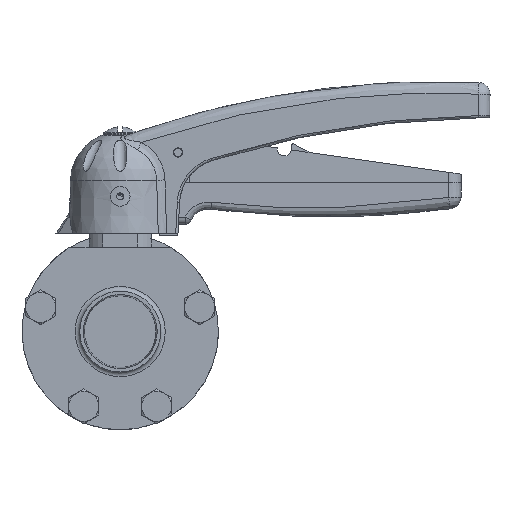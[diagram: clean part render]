
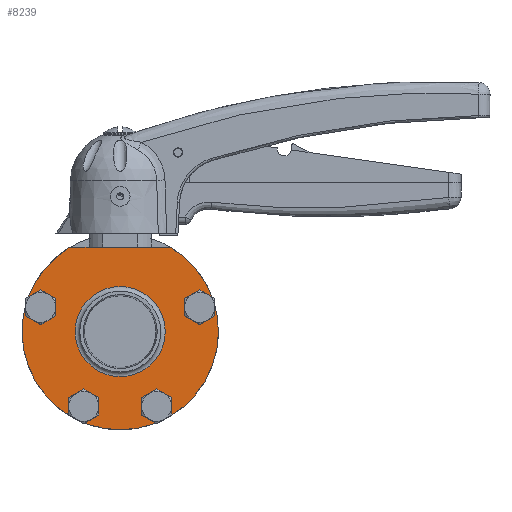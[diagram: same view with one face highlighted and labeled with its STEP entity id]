
A CAD part, front view. The second image highlights one B-rep face of the part: STEP entity #8239.
In plain terms, the highlighted planar face has unit normal (0, -1, 0) as drawn and (-1, 0, 0) by its records, which use the part's own axes.
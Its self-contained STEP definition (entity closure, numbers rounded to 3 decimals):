
#912=FACE_BOUND('',#1695,.T.);
#913=FACE_BOUND('',#1696,.T.);
#914=FACE_BOUND('',#1697,.T.);
#915=FACE_BOUND('',#1698,.T.);
#916=FACE_BOUND('',#1699,.T.);
#967=PLANE('',#8923);
#1200=FACE_OUTER_BOUND('',#1694,.T.);
#1694=EDGE_LOOP('',(#5783,#5784));
#1695=EDGE_LOOP('',(#5785));
#1696=EDGE_LOOP('',(#5786));
#1697=EDGE_LOOP('',(#5787));
#1698=EDGE_LOOP('',(#5788));
#1699=EDGE_LOOP('',(#5789));
#2223=LINE('',#11910,#2802);
#2802=VECTOR('',#9797,10.);
#3377=CIRCLE('',#8911,4.25);
#3379=CIRCLE('',#8914,4.25);
#3381=CIRCLE('',#8917,4.25);
#3383=CIRCLE('',#8920,4.25);
#3385=CIRCLE('',#8924,42.5);
#3386=CIRCLE('',#8925,19.5);
#3701=VERTEX_POINT('',#11879);
#3703=VERTEX_POINT('',#11885);
#3705=VERTEX_POINT('',#11891);
#3707=VERTEX_POINT('',#11897);
#3710=VERTEX_POINT('',#11904);
#3712=VERTEX_POINT('',#11908);
#3713=VERTEX_POINT('',#11913);
#4490=EDGE_CURVE('',#3701,#3701,#3377,.T.);
#4493=EDGE_CURVE('',#3703,#3703,#3379,.T.);
#4496=EDGE_CURVE('',#3705,#3705,#3381,.T.);
#4499=EDGE_CURVE('',#3707,#3707,#3383,.T.);
#4505=EDGE_CURVE('',#3710,#3712,#2223,.T.);
#4506=EDGE_CURVE('',#3712,#3710,#3385,.T.);
#4507=EDGE_CURVE('',#3713,#3713,#3386,.T.);
#5783=ORIENTED_EDGE('',*,*,#4505,.T.);
#5784=ORIENTED_EDGE('',*,*,#4506,.T.);
#5785=ORIENTED_EDGE('',*,*,#4490,.T.);
#5786=ORIENTED_EDGE('',*,*,#4493,.T.);
#5787=ORIENTED_EDGE('',*,*,#4496,.T.);
#5788=ORIENTED_EDGE('',*,*,#4499,.T.);
#5789=ORIENTED_EDGE('',*,*,#4507,.F.);
#8239=ADVANCED_FACE('',(#1200,#912,#913,#914,#915,#916),#967,.T.);
#8911=AXIS2_PLACEMENT_3D('',#11880,#9766,#9767);
#8914=AXIS2_PLACEMENT_3D('',#11886,#9773,#9774);
#8917=AXIS2_PLACEMENT_3D('',#11892,#9780,#9781);
#8920=AXIS2_PLACEMENT_3D('',#11898,#9787,#9788);
#8923=AXIS2_PLACEMENT_3D('',#11911,#9798,#9799);
#8924=AXIS2_PLACEMENT_3D('',#11912,#9800,#9801);
#8925=AXIS2_PLACEMENT_3D('',#11914,#9802,#9803);
#9766=DIRECTION('center_axis',(1.,0.,0.));
#9767=DIRECTION('ref_axis',(0.,0.,1.));
#9773=DIRECTION('center_axis',(1.,0.,0.));
#9774=DIRECTION('ref_axis',(0.,0.,1.));
#9780=DIRECTION('center_axis',(1.,0.,0.));
#9781=DIRECTION('ref_axis',(0.,0.,1.));
#9787=DIRECTION('center_axis',(1.,0.,0.));
#9788=DIRECTION('ref_axis',(0.,0.,1.));
#9797=DIRECTION('',(0.,0.,-1.));
#9798=DIRECTION('center_axis',(-1.,0.,0.));
#9799=DIRECTION('ref_axis',(0.,0.,1.));
#9800=DIRECTION('center_axis',(-1.,0.,0.));
#9801=DIRECTION('ref_axis',(0.,0.,1.));
#9802=DIRECTION('center_axis',(-1.,0.,0.));
#9803=DIRECTION('ref_axis',(0.,0.,1.));
#11879=CARTESIAN_POINT('',(-10.,10.525,30.177));
#11880=CARTESIAN_POINT('Origin',(-10.,10.525,34.427));
#11885=CARTESIAN_POINT('',(-10.,-32.357,-20.031));
#11886=CARTESIAN_POINT('Origin',(-10.,-32.357,-15.781));
#11891=CARTESIAN_POINT('',(-10.,-32.357,11.531));
#11892=CARTESIAN_POINT('Origin',(-10.,-32.357,15.781));
#11897=CARTESIAN_POINT('',(-10.,10.525,-38.677));
#11898=CARTESIAN_POINT('Origin',(-10.,10.525,-34.427));
#11904=CARTESIAN_POINT('',(-10.,36.5,21.772));
#11908=CARTESIAN_POINT('',(-10.,36.5,-21.772));
#11910=CARTESIAN_POINT('',(-10.,36.5,15.904));
#11911=CARTESIAN_POINT('Origin',(-10.,-19.5,0.));
#11912=CARTESIAN_POINT('Origin',(-10.,0.,
0.));
#11913=CARTESIAN_POINT('',(-10.,0.,-19.5));
#11914=CARTESIAN_POINT('Origin',(-10.,0.,0.));
